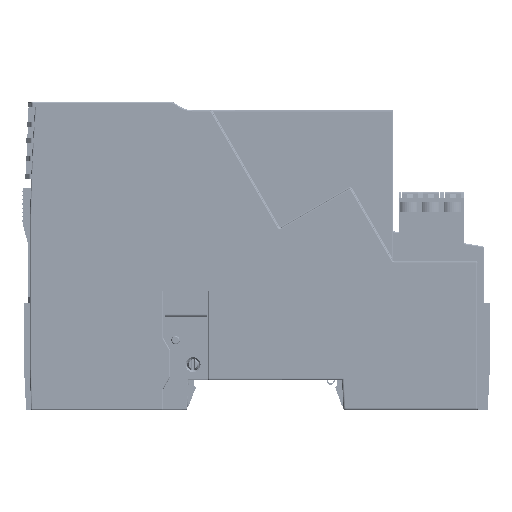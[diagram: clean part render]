
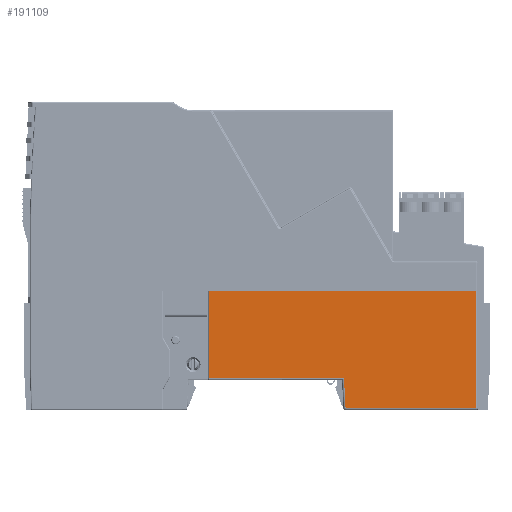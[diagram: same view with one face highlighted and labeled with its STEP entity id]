
A CAD part, left-side view. The second image highlights one B-rep face of the part: STEP entity #191109.
In plain terms, the highlighted planar face has unit normal (-1, 0, 0).
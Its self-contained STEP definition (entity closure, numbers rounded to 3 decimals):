
#4339 = VECTOR ( 'NONE', #211807, 1000. ) ;
#4646 = DIRECTION ( 'NONE',  ( -1., 0., 0. ) ) ;
#4848 = CARTESIAN_POINT ( 'NONE',  ( -28.5, -18.474, -6.5 ) ) ;
#8411 = EDGE_CURVE ( 'NONE', #49990, #47015, #62407, .T. ) ;
#14815 = CARTESIAN_POINT ( 'NONE',  ( -28.5, -50., 14. ) ) ;
#29976 = AXIS2_PLACEMENT_3D ( 'NONE', #138040, #4646, #180126 ) ;
#38691 = CARTESIAN_POINT ( 'NONE',  ( -28.5, -50., -13.5 ) ) ;
#47015 = VERTEX_POINT ( 'NONE', #125488 ) ;
#49623 = FACE_OUTER_BOUND ( 'NONE', #111998, .T. ) ;
#49990 = VERTEX_POINT ( 'NONE', #4848 ) ;
#51024 = CARTESIAN_POINT ( 'NONE',  ( -28.5, -49.5, -13.5 ) ) ;
#62407 = LINE ( 'NONE', #239284, #4339 ) ;
#66524 = LINE ( 'NONE', #182402, #95751 ) ;
#67619 = VECTOR ( 'NONE', #189440, 1000. ) ;
#67950 = DIRECTION ( 'NONE',  ( 0., 0., -1. ) ) ;
#73692 = VECTOR ( 'NONE', #125660, 1000. ) ;
#87566 = CARTESIAN_POINT ( 'NONE',  ( -28.5, -18.544, -7.82 ) ) ;
#89217 = EDGE_CURVE ( 'NONE', #277098, #225732, #188875, .T. ) ;
#91684 = PLANE ( 'NONE',  #29976 ) ;
#95751 = VECTOR ( 'NONE', #67950, 1000. ) ;
#99939 = ORIENTED_EDGE ( 'NONE', *, *, #116273, .F. ) ;
#100683 = EDGE_CURVE ( 'NONE', #169839, #49990, #247003, .T. ) ;
#100981 = LINE ( 'NONE', #211195, #67619 ) ;
#109052 = VERTEX_POINT ( 'NONE', #51024 ) ;
#111304 = CARTESIAN_POINT ( 'NONE',  ( -28.5, 13.2, 14. ) ) ;
#111998 = EDGE_LOOP ( 'NONE', ( #215330, #221597, #253977, #243776, #99939, #191344 ) ) ;
#116273 = EDGE_CURVE ( 'NONE', #277098, #109052, #66524, .T. ) ;
#125488 = CARTESIAN_POINT ( 'NONE',  ( -28.5, 13.2, -6.5 ) ) ;
#125660 = DIRECTION ( 'NONE',  ( 0., 1., 0. ) ) ;
#138040 = CARTESIAN_POINT ( 'NONE',  ( -28.5, -50., 0. ) ) ;
#156424 = CARTESIAN_POINT ( 'NONE',  ( -28.5, -49.5, 14. ) ) ;
#169839 = VERTEX_POINT ( 'NONE', #222707 ) ;
#176024 = DIRECTION ( 'NONE',  ( 0., 0.052, 0.999 ) ) ;
#180126 = DIRECTION ( 'NONE',  ( 0., 0.707, 0.707 ) ) ;
#182402 = CARTESIAN_POINT ( 'NONE',  ( -28.5, -49.5, 0. ) ) ;
#182808 = EDGE_CURVE ( 'NONE', #109052, #169839, #283658, .T. ) ;
#188875 = LINE ( 'NONE', #14815, #235004 ) ;
#189440 = DIRECTION ( 'NONE',  ( 0., 0., 1. ) ) ;
#191109 = ADVANCED_FACE ( 'NONE', ( #49623 ), #91684, .T. ) ;
#191344 = ORIENTED_EDGE ( 'NONE', *, *, #89217, .T. ) ;
#193694 = EDGE_CURVE ( 'NONE', #47015, #225732, #100981, .T. ) ;
#211195 = CARTESIAN_POINT ( 'NONE',  ( -28.5, 13.2, -3.5 ) ) ;
#211807 = DIRECTION ( 'NONE',  ( 0., 1., 0. ) ) ;
#215330 = ORIENTED_EDGE ( 'NONE', *, *, #193694, .F. ) ;
#221597 = ORIENTED_EDGE ( 'NONE', *, *, #8411, .F. ) ;
#222707 = CARTESIAN_POINT ( 'NONE',  ( -28.5, -18.841, -13.5 ) ) ;
#225732 = VERTEX_POINT ( 'NONE', #111304 ) ;
#228154 = VECTOR ( 'NONE', #176024, 1000. ) ;
#235004 = VECTOR ( 'NONE', #280181, 1000. ) ;
#239284 = CARTESIAN_POINT ( 'NONE',  ( -28.5, -34., -6.5 ) ) ;
#243776 = ORIENTED_EDGE ( 'NONE', *, *, #182808, .F. ) ;
#247003 = LINE ( 'NONE', #87566, #228154 ) ;
#253977 = ORIENTED_EDGE ( 'NONE', *, *, #100683, .F. ) ;
#277098 = VERTEX_POINT ( 'NONE', #156424 ) ;
#280181 = DIRECTION ( 'NONE',  ( 0., 1., 0. ) ) ;
#283658 = LINE ( 'NONE', #38691, #73692 ) ;
